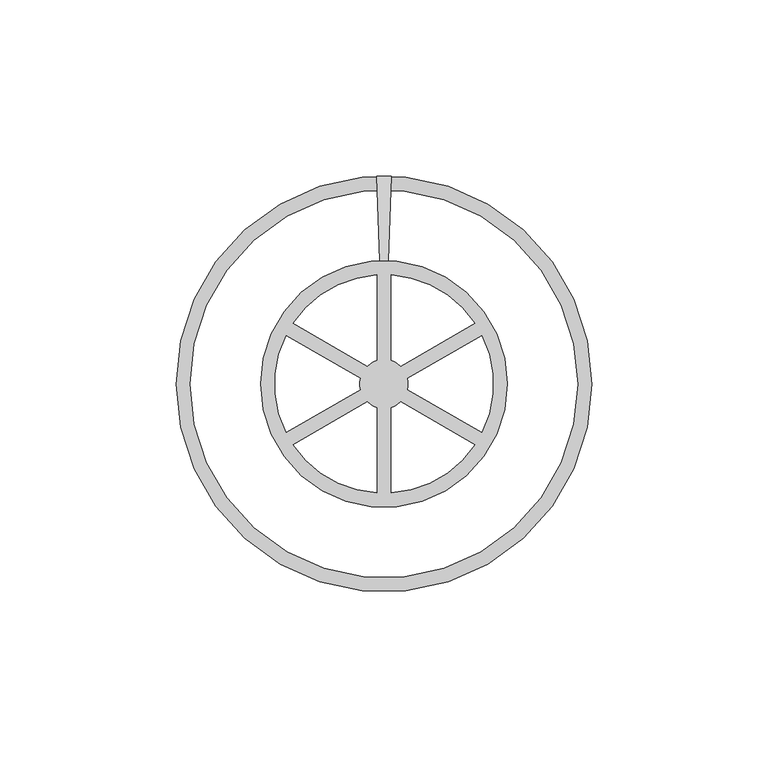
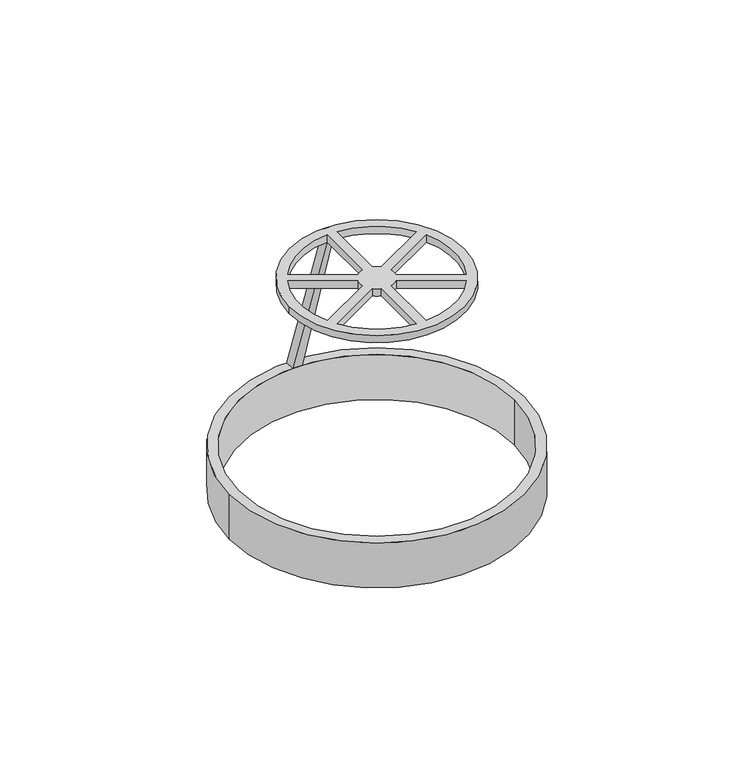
"""IFC4 building model written with IfcOpenShell, lengths in millimetres: pipe fitting geometry."""

from ifc_helpers import new_model, si_unit, point, frame, origin, origin_2d, place, context, project, spatial, polyline, circle_curve, trimmed, segment, composite_curve, outline, extrude, source, transform, mapped, element, save
from ifc_brep_helpers import plane_surface, revolved_surface, advanced_brep


def pipe_fitting_f81a362b(model_context):
    return source(origin(), model_context, "Body", "SolidModel", [
        advanced_brep(
        [(2.0590703, 58.9640588, 0.0), (1.2214824, 34.9786789, 71.0), (1.2214824, 34.9786789, 68.0), (1.1172754, 31.9945824, 68.0), (1.9194723, 54.9664955, 0.0), (-2.0590703, 58.9640588, 0.0), (-1.9194723, 54.9664955, 0.0), (-1.1172754, 31.9945824, 68.0), (-1.2214824, 34.9786789, 68.0), (-1.2214824, 34.9786789, 71.0)],
        [
            (0, 1),
            (1, 2),
            (2, 3),
            (3, 4),
            (4, 0),
            (5, 6),
            (6, 7),
            (7, 8),
            (8, 9),
            (9, 5),
            (9, 1, circle_curve(frame((0.0, 0.0, 71.0), z_axis=(0.0, 0.0, -1.0), x_axis=(0.034899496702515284, 0.9993908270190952, 0.0)), 35.0)),
            (0, 5, circle_curve(frame((0.0, 0.0, 0.0), z_axis=(0.0, 0.0, 1.0), x_axis=(0.034899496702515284, 0.9993908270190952, 0.0)), 59.0)),
            (8, 2, circle_curve(frame((0.0, 0.0, 68.0), z_axis=(0.0, 0.0, -1.0), x_axis=(0.034899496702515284, 0.9993908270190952, 0.0)), 35.0)),
            (7, 3, circle_curve(frame((0.0, 0.0, 68.0), z_axis=(0.0, 0.0, -1.0), x_axis=(0.034899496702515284, 0.9993908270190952, 0.0)), 32.0140845)),
            (6, 4, circle_curve(frame((0.0, 0.0, 0.0), z_axis=(0.0, 0.0, -1.0), x_axis=(0.034899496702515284, 0.9993908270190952, 0.0)), 55.0)),
        ],
        [
            plane_surface(frame((2.0590703, 58.9640588, 0.0), z_axis=(0.9993908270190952, -0.034899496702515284, 0.0), x_axis=(0.0, 0.0, 1.0))),
            plane_surface(frame((-2.0590703, 58.9640588, 0.0), z_axis=(-0.9993908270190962, -0.03489949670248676, 0.0), x_axis=(0.0, 0.0, 1.0))),
            revolved_surface(polyline([(2.0590703, 58.9640588, 0.0), (1.2214824, 34.9786789, 71.0)]), (0.0, 0.0, 0.0), (0.0, 0.0, 1.0)),
            revolved_surface(polyline([(1.221482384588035, 34.978678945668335, 71.0), (1.221482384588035, 34.978678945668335, 68.0)]), (0.0, 0.0, 0.0), (0.0, 0.0, 1.0)),
            plane_surface(frame((0.0, 0.0, 68.0), z_axis=(0.0, 0.0, 1.0), x_axis=(0.034899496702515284, 0.9993908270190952, 0.0))),
            revolved_surface(polyline([(1.1172754, 31.9945824, 68.0), (1.9194723, 54.9664955, 0.0)]), (0.0, 0.0, 0.0), (0.0, 0.0, 1.0)),
            plane_surface(frame((0.0, 0.0, 0.0), z_axis=(0.0, 0.0, -1.0), x_axis=(0.034899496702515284, 0.9993908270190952, 0.0))),
        ],
        [
            (0, [[1, 2, 3, 4, 5]]),
            (1, [[6, 7, 8, 9, 10]]),
            (2, [[11, -1, 12, -10]]),
            (3, [[13, -2, -11, -9]]),
            (4, [[14, -3, -13, -8]]),
            (5, [[15, -4, -14, -7]]),
            (6, [[-12, -5, -15, -6]]),
        ],
    ),
        extrude(outline(composite_curve([segment(trimmed(circle_curve(origin_2d(), 35.0), [point((-35.0, 0.0))], [point((35.0, 0.0))], False, "CARTESIAN"), True, "CONTINUOUS"), segment(trimmed(circle_curve(origin_2d(), 35.0), [point((35.0, 0.0))], [point((-35.0, 0.0))], False, "CARTESIAN"), True, "CONTINUOUS")], self_intersect=False), holes=[composite_curve([segment(trimmed(circle_curve(origin_2d(), 6.9765817), [point((-2.0, -6.6837634))], [point((-4.7883089, -5.0739325))], False, "CARTESIAN"), True, "CONTINUOUS"), segment(polyline([(-4.7883089, -5.0739325), (-25.7908566, -17.1997591)]), True, "CONTINUOUS"), segment(trimmed(circle_curve(origin_2d(), 31.0), [point((-25.7908566, -17.1997591))], [point((-2.0, -30.9354166))], True, "CARTESIAN"), True, "CONTINUOUS"), segment(polyline([(-2.0, -30.9354166), (-2.0, -6.6837634)]), True, "CONTINUOUS")], self_intersect=False), composite_curve([segment(trimmed(circle_curve(origin_2d(), 31.0), [point((-2.0, 30.9354166))], [point((-25.7908566, 17.1997591))], True, "CARTESIAN"), True, "CONTINUOUS"), segment(polyline([(-25.7908566, 17.1997591), (-4.7883089, 5.0739325)]), True, "CONTINUOUS"), segment(trimmed(circle_curve(origin_2d(), 6.9765817), [point((-4.7883089, 5.0739325))], [point((-2.0, 6.6837634))], False, "CARTESIAN"), True, "CONTINUOUS"), segment(polyline([(-2.0, 6.6837634), (-2.0, 30.9354166)]), True, "CONTINUOUS")], self_intersect=False), composite_curve([segment(polyline([(2.0, 30.9354166), (2.0, 6.6837634)]), True, "CONTINUOUS"), segment(trimmed(circle_curve(origin_2d(), 6.9765817), [point((2.0, 6.6837634))], [point((4.7883089, 5.0739325))], False, "CARTESIAN"), True, "CONTINUOUS"), segment(polyline([(4.7883089, 5.0739325), (25.7908566, 17.1997591)]), True, "CONTINUOUS"), segment(trimmed(circle_curve(origin_2d(), 31.0), [point((25.7908566, 17.1997591))], [point((2.0, 30.9354166))], True, "CARTESIAN"), True, "CONTINUOUS")], self_intersect=False), composite_curve([segment(trimmed(circle_curve(origin_2d(), 6.9765817), [point((6.7883089, 1.6098309))], [point((6.7883089, -1.6098309))], False, "CARTESIAN"), True, "CONTINUOUS"), segment(polyline([(6.7883089, -1.6098309), (27.7908566, -13.7356575)]), True, "CONTINUOUS"), segment(trimmed(circle_curve(origin_2d(), 31.0), [point((27.7908566, -13.7356575))], [point((27.7908566, 13.7356575))], True, "CARTESIAN"), True, "CONTINUOUS"), segment(polyline([(27.7908566, 13.7356575), (6.7883089, 1.6098309)]), True, "CONTINUOUS")], self_intersect=False), composite_curve([segment(polyline([(25.7908566, -17.1997591), (4.7883089, -5.0739325)]), True, "CONTINUOUS"), segment(trimmed(circle_curve(origin_2d(), 6.9765817), [point((4.7883089, -5.0739325))], [point((2.0, -6.6837634))], False, "CARTESIAN"), True, "CONTINUOUS"), segment(polyline([(2.0, -6.6837634), (2.0, -30.9354166)]), True, "CONTINUOUS"), segment(trimmed(circle_curve(origin_2d(), 31.0), [point((2.0, -30.9354166))], [point((25.7908566, -17.1997591))], True, "CARTESIAN"), True, "CONTINUOUS")], self_intersect=False), composite_curve([segment(trimmed(circle_curve(origin_2d(), 6.9765817), [point((-6.7883089, -1.6098309))], [point((-6.7883089, 1.6098309))], False, "CARTESIAN"), True, "CONTINUOUS"), segment(polyline([(-6.7883089, 1.6098309), (-27.7908566, 13.7356575)]), True, "CONTINUOUS"), segment(trimmed(circle_curve(origin_2d(), 31.0), [point((-27.7908566, 13.7356575))], [point((-27.7908566, -13.7356575))], True, "CARTESIAN"), True, "CONTINUOUS"), segment(polyline([(-27.7908566, -13.7356575), (-6.7883089, -1.6098309)]), True, "CONTINUOUS")], self_intersect=False)]), frame((0.0, 0.0, 68.0), z_axis=(0.0, 0.0, 1.0), x_axis=(1.0, 0.0, 0.0)), (0.0, 0.0, 1.0), 3.0),
        extrude(outline(composite_curve([segment(trimmed(circle_curve(origin_2d(), 59.0), [point((-59.0, 0.0))], [point((59.0, 0.0))], False, "CARTESIAN"), True, "CONTINUOUS"), segment(trimmed(circle_curve(origin_2d(), 59.0), [point((59.0, 0.0))], [point((-59.0, 0.0))], False, "CARTESIAN"), True, "CONTINUOUS")], self_intersect=False), holes=[composite_curve([segment(trimmed(circle_curve(origin_2d(), 55.0), [point((-55.0, 0.0))], [point((55.0, 0.0))], True, "CARTESIAN"), True, "CONTINUOUS"), segment(trimmed(circle_curve(origin_2d(), 55.0), [point((55.0, 0.0))], [point((-55.0, 0.0))], True, "CARTESIAN"), True, "CONTINUOUS")], self_intersect=False)]), frame((0.0, 0.0, -19.0), z_axis=(0.0, 0.0, 1.0), x_axis=(1.0, 0.0, 0.0)), (0.0, 0.0, 1.0), 19.0),
    ])


if __name__ == "__main__":
    model = new_model("IFC4")
    model_context = context("Model", 3, world=origin())
    ifc_project = project(units=[si_unit("LENGTHUNIT", "METRE", prefix="MILLI")], contexts=[model_context])
    site = spatial("IfcSite", under=ifc_project)
    building = spatial("IfcBuilding", under=site)
    placement = place(None, origin())
    pipe_fitting_shape = pipe_fitting_f81a362b(model_context)
    element("IfcPipeFitting", 1, at=placement, inside=building, context=model_context, shape_type="MappedRepresentation", body=[
        mapped(pipe_fitting_shape, transform((0.0, 0.0, 0.0), x_axis=(1.0, 0.0, 0.0), y_axis=(0.0, 1.0, 0.0), z_axis=(0.0, 0.0, 1.0))),
    ])
    save(model, "model.ifc")
